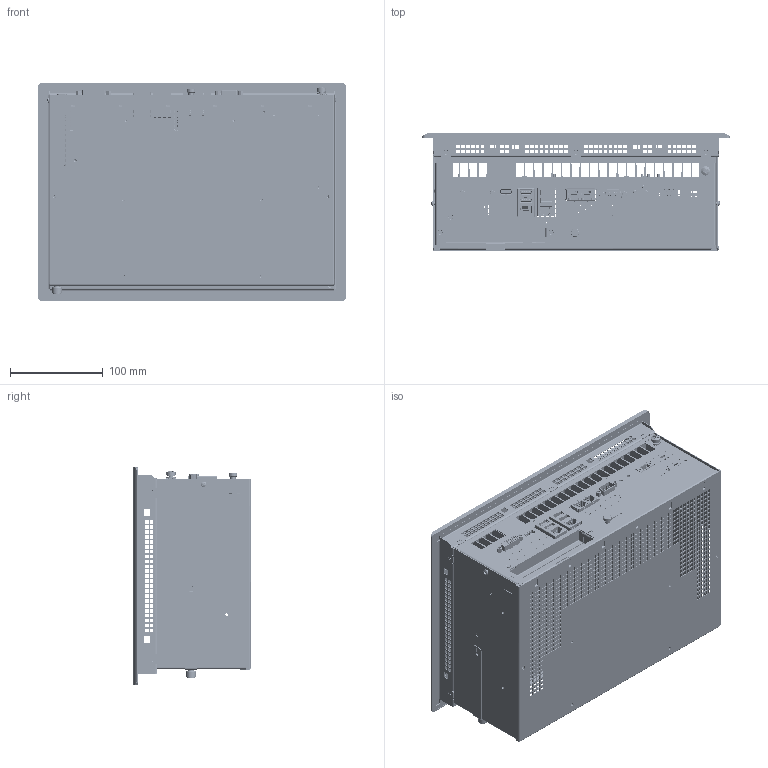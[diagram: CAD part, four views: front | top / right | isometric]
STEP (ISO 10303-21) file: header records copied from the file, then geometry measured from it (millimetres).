
FILE_DESCRIPTION (( 'STEP AP214' ), '1' );
FILE_NAME ('C6P34-Panel_121W_Res_S1.STEP', '2019-09-24T09:25:34', ( '' ), ( '' ), 'SwSTEP 2.0', 'SolidWorks 2018', '' );
FILE_SCHEMA (( 'AUTOMOTIVE_DESIGN' ));
Length unit declared in the file: millimetre
Products named in the file (148): 21410056; 21404036; 69111028; 21614000; 62920009; 51524089; 65720030; 55202070_Default<A macchina>; 21410046; 59302540; piazzuola_de800_di370; 21409042; 57936013; 21405029; 7359_056; 57936014; 66320001; D02201701; 66320016; 21502089; 21410052; 7397_227; 59302540_Default<A macchina>; 52912002; 57902481; 51702286_Default<A macchina>; 52536147; 69112004; 66320015; 23330039; 62920002; 58102117; 48000067; 57902482; 14300025; 58502117; 59702227_Default<A macchina>; 59702227; 56636638; 58702102_Default<A macchina>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
Assembly tree (104 placements, depth 4):
  21410056
  21404036
  69111028
  21614000
  51524089
Bounding box: 331 x 126.5 x 234 mm (x, y, z)
Volume: 1099328.1 mm3; surface area: 1326524.3 mm2
Topology: 209 solids, 227 shells, 26733 faces, 75222 edges, 49311 vertices
Faces by surface type: plane 20935, cylinder 4523, bspline 602, cone 580, torus 83, sphere 10
Full cylindrical faces by diameter (mm): 0.3 x9, 0.434 x1, 0.6 x30, 0.65 x6, 0.7 x165, 0.8 x36, 0.85 x66, 0.9 x175, 0.95 x11, 1 x119, 1.1 x3, 1.2 x10, 1.32 x2, 1.35 x4, 1.4 x8, 1.5 x6, 1.6 x7, 1.7 x4, 1.8 x3, 1.9 x4, 1.95 x4, 2 x1, 2.05 x1, 2.3 x18, 2.4 x9, 2.5 x41, 2.6 x5, 2.8 x3, 2.874 x1, 3 x71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
Entity records: 799643 total; most frequent: CARTESIAN_POINT 165637, ORIENTED_EDGE 130810, DIRECTION 116242, EDGE_CURVE 65795, VECTOR 55824, LINE 55824, VERTEX_POINT 43866, EDGE_LOOP 30660
